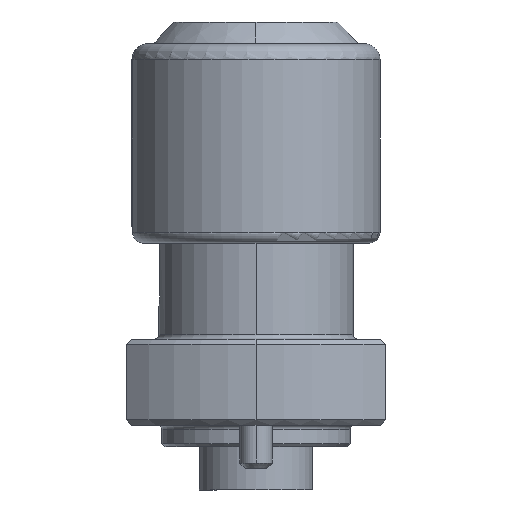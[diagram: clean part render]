
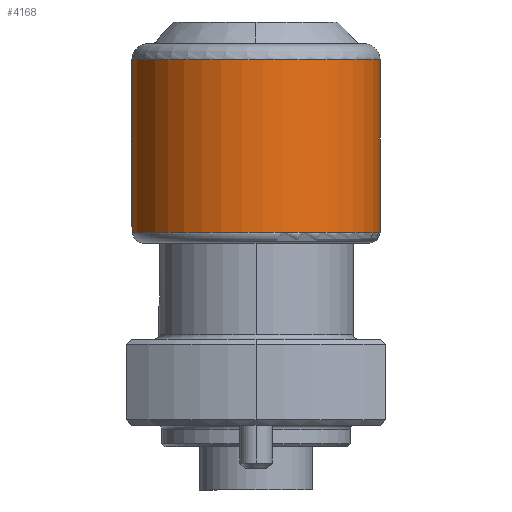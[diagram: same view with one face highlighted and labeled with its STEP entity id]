
A CAD part, left-side view. The second image highlights one B-rep face of the part: STEP entity #4168.
In plain terms, the highlighted cylindrical face has radius 11.5 mm (diameter 23 mm), a partial arc.
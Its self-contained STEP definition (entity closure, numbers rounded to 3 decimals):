
#599 = CARTESIAN_POINT ( 'NONE',  ( 1.221, -11.435, 37.395 ) ) ;
#657 = AXIS2_PLACEMENT_3D ( 'NONE', #8944, #1178, #4907 ) ;
#759 = DIRECTION ( 'NONE',  ( 0., 0., 1. ) ) ;
#1178 = DIRECTION ( 'NONE',  ( 0., 0., 1. ) ) ;
#1525 = VERTEX_POINT ( 'NONE', #9132 ) ;
#1715 = AXIS2_PLACEMENT_3D ( 'NONE', #9500, #4819, #1918 ) ;
#1728 = VECTOR ( 'NONE', #10054, 1000. ) ;
#1775 = EDGE_CURVE ( 'NONE', #8559, #1525, #9252, .T. ) ;
#1918 = DIRECTION ( 'NONE',  ( 0., -1., 0. ) ) ;
#2651 = CARTESIAN_POINT ( 'NONE',  ( 0., 0., 17.895 ) ) ;
#3198 = CYLINDRICAL_SURFACE ( 'NONE', #657, 11.5 ) ;
#3379 = DIRECTION ( 'NONE',  ( 0., 0., -1. ) ) ;
#4168 = ADVANCED_FACE ( 'NONE', ( #8758 ), #3198, .T. ) ;
#4819 = DIRECTION ( 'NONE',  ( 0., 0., -1. ) ) ;
#4907 = DIRECTION ( 'NONE',  ( 0., 1., 0. ) ) ;
#6054 = VECTOR ( 'NONE', #3379, 1000. ) ;
#6070 = ORIENTED_EDGE ( 'NONE', *, *, #7910, .T. ) ;
#6268 = CARTESIAN_POINT ( 'NONE',  ( 0., 11.5, 37.395 ) ) ;
#6404 = EDGE_LOOP ( 'NONE', ( #12127, #6713, #6070, #9397 ) ) ;
#6713 = ORIENTED_EDGE ( 'NONE', *, *, #8312, .T. ) ;
#6776 = AXIS2_PLACEMENT_3D ( 'NONE', #2651, #759, #7634 ) ;
#7152 = CIRCLE ( 'NONE', #1715, 11.5 ) ;
#7239 = CARTESIAN_POINT ( 'NONE',  ( 0., 11.5, 17.895 ) ) ;
#7382 = CIRCLE ( 'NONE', #6776, 11.5 ) ;
#7634 = DIRECTION ( 'NONE',  ( 0., 1., 0. ) ) ;
#7882 = VERTEX_POINT ( 'NONE', #8490 ) ;
#7910 = EDGE_CURVE ( 'NONE', #7882, #8559, #7152, .T. ) ;
#8312 = EDGE_CURVE ( 'NONE', #10918, #7882, #10113, .T. ) ;
#8490 = CARTESIAN_POINT ( 'NONE',  ( 0., 11.5, 33.895 ) ) ;
#8559 = VERTEX_POINT ( 'NONE', #11784 ) ;
#8758 = FACE_OUTER_BOUND ( 'NONE', #6404, .T. ) ;
#8869 = EDGE_CURVE ( 'NONE', #1525, #10918, #7382, .T. ) ;
#8944 = CARTESIAN_POINT ( 'NONE',  ( 0., 0., 37.395 ) ) ;
#9132 = CARTESIAN_POINT ( 'NONE',  ( 1.221, -11.435, 17.895 ) ) ;
#9252 = LINE ( 'NONE', #599, #6054 ) ;
#9397 = ORIENTED_EDGE ( 'NONE', *, *, #1775, .T. ) ;
#9500 = CARTESIAN_POINT ( 'NONE',  ( 0., 0., 33.895 ) ) ;
#10054 = DIRECTION ( 'NONE',  ( 0., 0., 1. ) ) ;
#10113 = LINE ( 'NONE', #6268, #1728 ) ;
#10918 = VERTEX_POINT ( 'NONE', #7239 ) ;
#11784 = CARTESIAN_POINT ( 'NONE',  ( 1.221, -11.435, 33.895 ) ) ;
#12127 = ORIENTED_EDGE ( 'NONE', *, *, #8869, .T. ) ;
